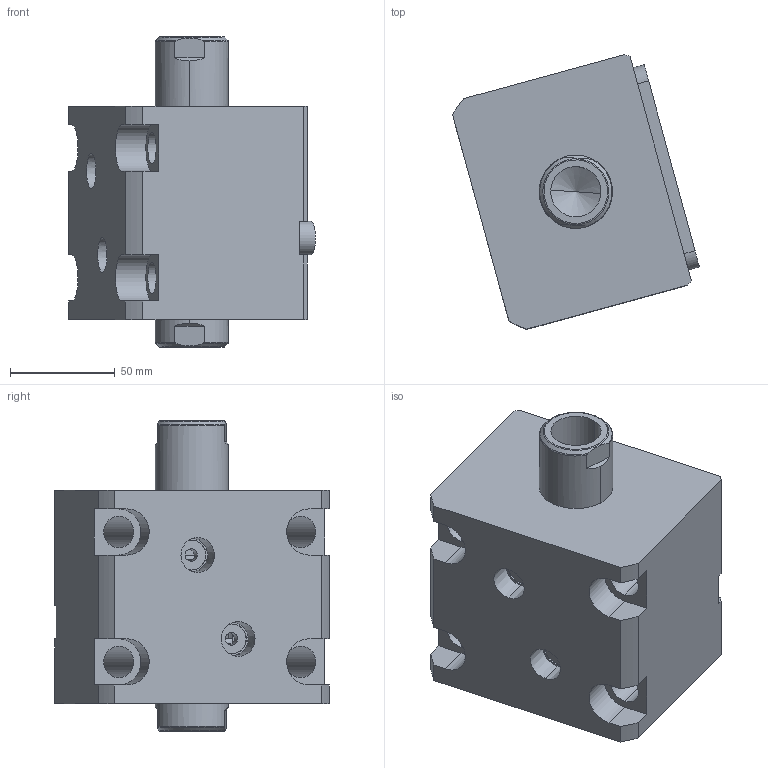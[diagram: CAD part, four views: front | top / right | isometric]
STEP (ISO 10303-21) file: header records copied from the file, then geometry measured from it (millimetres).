
FILE_DESCRIPTION (( 'STEP AP214' ), '1' );
FILE_NAME ('chtb-lw63x20n_asm.STEP', '2018-05-03T06:58:12', ( 'Windows' ), ( 'Microsoft' ), 'SwSTEP 2.0', 'SolidWorks 2015', '' );
FILE_SCHEMA (( 'AUTOMOTIVE_DESIGN' ));
Length unit declared in the file: millimetre
Products named in the file (5): CHTB-SW63X20NHSG; CHTB-LW63X20NBT; CHTB-LA63PJ; CHTB-63QG; chtb-lw63x20n_asm
Assembly tree (4 placements, depth 2):
  chtb-lw63x20n_asm
    CHTB-63QG
    CHTB-LA63PJ
    CHTB-LW63X20NBT
    CHTB-SW63X20NHSG
Bounding box: 117.84 x 130.94 x 148 mm (x, y, z)
Volume: 936061 mm3; surface area: 146958.1 mm2
Topology: 4 solids, 4 shells, 194 faces, 563 edges, 381 vertices
Faces by surface type: cylinder 104, plane 50, cone 16, bspline 12, torus 12
Entity records: 18887 total; most frequent: CARTESIAN_POINT 13868, ORIENTED_EDGE 1110, DIRECTION 876, EDGE_CURVE 555, VERTEX_POINT 381, AXIS2_PLACEMENT_3D 336, EDGE_LOOP 222, VECTOR 204
